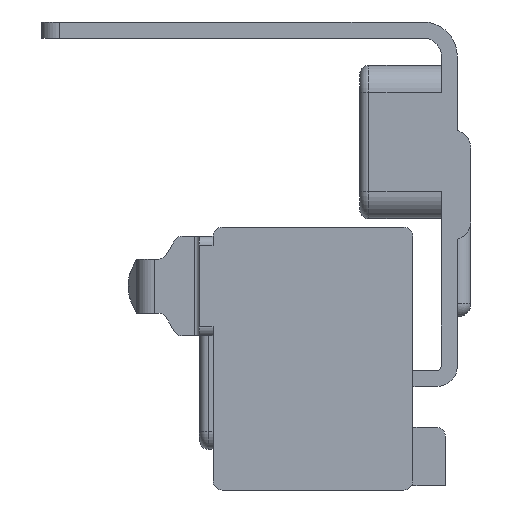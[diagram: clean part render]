
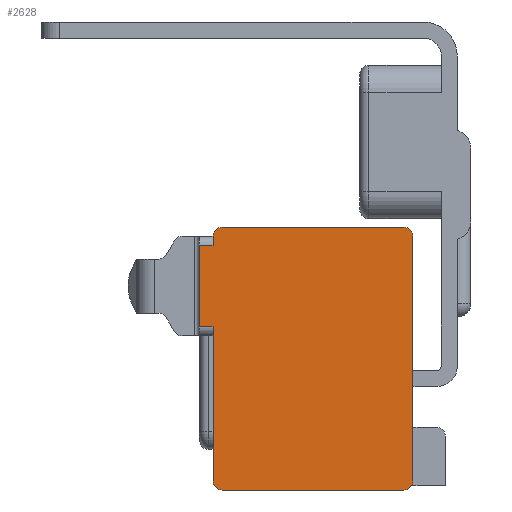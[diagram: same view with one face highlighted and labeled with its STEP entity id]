
A CAD part, left-side view. The second image highlights one B-rep face of the part: STEP entity #2628.
In plain terms, the highlighted planar face has unit normal (-1, 0, 0).
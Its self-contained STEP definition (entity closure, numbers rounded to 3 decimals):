
#11 = ORIENTED_EDGE ( 'NONE', *, *, #821, .T. ) ;
#38 = VERTEX_POINT ( 'NONE', #5432 ) ;
#59 = CARTESIAN_POINT ( 'NONE',  ( -103., 5.9, -11.43 ) ) ;
#80 = LINE ( 'NONE', #5522, #3697 ) ;
#113 = LINE ( 'NONE', #3253, #258 ) ;
#188 = VERTEX_POINT ( 'NONE', #2186 ) ;
#246 = EDGE_CURVE ( 'NONE', #5595, #4277, #113, .T. ) ;
#258 = VECTOR ( 'NONE', #2802, 1000. ) ;
#273 = EDGE_CURVE ( 'NONE', #2851, #188, #5119, .T. ) ;
#282 = CARTESIAN_POINT ( 'NONE',  ( -103., 27., 16.6 ) ) ;
#307 = CARTESIAN_POINT ( 'NONE',  ( -103., 4.9, -10.43 ) ) ;
#466 = CARTESIAN_POINT ( 'NONE',  ( -103., 26., 16.6 ) ) ;
#478 = AXIS2_PLACEMENT_3D ( 'NONE', #4715, #5324, #5301 ) ;
#546 = DIRECTION ( 'NONE',  ( 0., 1., 0. ) ) ;
#553 = CARTESIAN_POINT ( 'NONE',  ( -103., 26., 17.6 ) ) ;
#569 = DIRECTION ( 'NONE',  ( -1., 0., 0. ) ) ;
#586 = CARTESIAN_POINT ( 'NONE',  ( -103., 26., -10.43 ) ) ;
#657 = DIRECTION ( 'NONE',  ( 0., 1., 0. ) ) ;
#662 = ORIENTED_EDGE ( 'NONE', *, *, #2162, .T. ) ;
#671 = CARTESIAN_POINT ( 'NONE',  ( -103., 28.5, 15.6 ) ) ;
#821 = EDGE_CURVE ( 'NONE', #4277, #3426, #5674, .T. ) ;
#878 = ORIENTED_EDGE ( 'NONE', *, *, #3406, .T. ) ;
#987 = VECTOR ( 'NONE', #3020, 1000. ) ;
#1039 = DIRECTION ( 'NONE',  ( 0., 0., -1. ) ) ;
#1123 = ORIENTED_EDGE ( 'NONE', *, *, #2232, .T. ) ;
#1176 = VERTEX_POINT ( 'NONE', #2259 ) ;
#1353 = CARTESIAN_POINT ( 'NONE',  ( -103., 27., -10.43 ) ) ;
#1536 = ORIENTED_EDGE ( 'NONE', *, *, #2674, .T. ) ;
#1584 = CARTESIAN_POINT ( 'NONE',  ( -103., 27., 6.6 ) ) ;
#1663 = VERTEX_POINT ( 'NONE', #553 ) ;
#1681 = ORIENTED_EDGE ( 'NONE', *, *, #3407, .T. ) ;
#1761 = DIRECTION ( 'NONE',  ( 0., 1., 0. ) ) ;
#1841 = VECTOR ( 'NONE', #1039, 1000. ) ;
#1851 = VECTOR ( 'NONE', #657, 1000. ) ;
#1897 = ORIENTED_EDGE ( 'NONE', *, *, #273, .T. ) ;
#1960 = AXIS2_PLACEMENT_3D ( 'NONE', #586, #569, #546 ) ;
#2007 = EDGE_CURVE ( 'NONE', #5326, #5595, #5714, .T. ) ;
#2126 = AXIS2_PLACEMENT_3D ( 'NONE', #466, #6031, #1761 ) ;
#2162 = EDGE_CURVE ( 'NONE', #188, #38, #5924, .T. ) ;
#2186 = CARTESIAN_POINT ( 'NONE',  ( -103., 27., -10.43 ) ) ;
#2205 = VERTEX_POINT ( 'NONE', #4471 ) ;
#2219 = LINE ( 'NONE', #2231, #3355 ) ;
#2231 = CARTESIAN_POINT ( 'NONE',  ( -103., 28.5, 6.6 ) ) ;
#2232 = EDGE_CURVE ( 'NONE', #2611, #1176, #2976, .T. ) ;
#2233 = LINE ( 'NONE', #2590, #987 ) ;
#2259 = CARTESIAN_POINT ( 'NONE',  ( -103., 28.5, 15.6 ) ) ;
#2303 = VERTEX_POINT ( 'NONE', #282 ) ;
#2455 = CIRCLE ( 'NONE', #2126, 1. ) ;
#2590 = CARTESIAN_POINT ( 'NONE',  ( -103., 28.5, 16.6 ) ) ;
#2611 = VERTEX_POINT ( 'NONE', #3251 ) ;
#2628 = ADVANCED_FACE ( 'NONE', ( #5783 ), #5682, .F. ) ;
#2653 = ORIENTED_EDGE ( 'NONE', *, *, #2007, .T. ) ;
#2674 = EDGE_CURVE ( 'NONE', #2303, #2611, #3108, .T. ) ;
#2697 = DIRECTION ( 'NONE',  ( 0., -1., 0. ) ) ;
#2802 = DIRECTION ( 'NONE',  ( 0., 0., 1. ) ) ;
#2851 = VERTEX_POINT ( 'NONE', #1584 ) ;
#2936 = EDGE_CURVE ( 'NONE', #38, #5326, #5546, .T. ) ;
#2976 = LINE ( 'NONE', #671, #1851 ) ;
#2987 = CARTESIAN_POINT ( 'NONE',  ( -103., 5.9, 16.6 ) ) ;
#3007 = DIRECTION ( 'NONE',  ( -1., 0., 0. ) ) ;
#3020 = DIRECTION ( 'NONE',  ( 0., 0., -1. ) ) ;
#3067 = EDGE_CURVE ( 'NONE', #3426, #1663, #80, .T. ) ;
#3095 = CARTESIAN_POINT ( 'NONE',  ( -103., 4.9, 16.6 ) ) ;
#3108 = LINE ( 'NONE', #1353, #1841 ) ;
#3183 = ORIENTED_EDGE ( 'NONE', *, *, #3067, .T. ) ;
#3234 = CARTESIAN_POINT ( 'NONE',  ( -103., 5.9, -11.43 ) ) ;
#3251 = CARTESIAN_POINT ( 'NONE',  ( -103., 27., 15.6 ) ) ;
#3253 = CARTESIAN_POINT ( 'NONE',  ( -103., 4.9, 16.6 ) ) ;
#3291 = DIRECTION ( 'NONE',  ( 0., 1., 0. ) ) ;
#3293 = DIRECTION ( 'NONE',  ( 0., 1., 0. ) ) ;
#3329 = DIRECTION ( 'NONE',  ( -1., 0., 0. ) ) ;
#3341 = CARTESIAN_POINT ( 'NONE',  ( -103., 5.9, 17.6 ) ) ;
#3355 = VECTOR ( 'NONE', #2697, 1000. ) ;
#3376 = CARTESIAN_POINT ( 'NONE',  ( -103., 5.9, -10.43 ) ) ;
#3406 = EDGE_CURVE ( 'NONE', #1663, #2303, #2455, .T. ) ;
#3407 = EDGE_CURVE ( 'NONE', #1176, #2205, #2233, .T. ) ;
#3426 = VERTEX_POINT ( 'NONE', #3341 ) ;
#3436 = ORIENTED_EDGE ( 'NONE', *, *, #246, .T. ) ;
#3533 = DIRECTION ( 'NONE',  ( 0., -1., 0. ) ) ;
#3682 = DIRECTION ( 'NONE',  ( 0., 0., -1. ) ) ;
#3697 = VECTOR ( 'NONE', #6106, 1000. ) ;
#3728 = CARTESIAN_POINT ( 'NONE',  ( -103., 27., -10.43 ) ) ;
#3782 = AXIS2_PLACEMENT_3D ( 'NONE', #2987, #3007, #3291 ) ;
#3932 = ORIENTED_EDGE ( 'NONE', *, *, #5169, .T. ) ;
#4000 = AXIS2_PLACEMENT_3D ( 'NONE', #3376, #3329, #3293 ) ;
#4277 = VERTEX_POINT ( 'NONE', #3095 ) ;
#4285 = VECTOR ( 'NONE', #3533, 1000. ) ;
#4457 = ORIENTED_EDGE ( 'NONE', *, *, #2936, .T. ) ;
#4471 = CARTESIAN_POINT ( 'NONE',  ( -103., 28.5, 6.6 ) ) ;
#4715 = CARTESIAN_POINT ( 'NONE',  ( -103., 28.5, 16.6 ) ) ;
#5119 = LINE ( 'NONE', #3728, #5652 ) ;
#5169 = EDGE_CURVE ( 'NONE', #2205, #2851, #2219, .T. ) ;
#5301 = DIRECTION ( 'NONE',  ( 0., 0., 1. ) ) ;
#5324 = DIRECTION ( 'NONE',  ( 1., 0., 0. ) ) ;
#5326 = VERTEX_POINT ( 'NONE', #59 ) ;
#5432 = CARTESIAN_POINT ( 'NONE',  ( -103., 26., -11.43 ) ) ;
#5522 = CARTESIAN_POINT ( 'NONE',  ( -103., 5.9, 17.6 ) ) ;
#5546 = LINE ( 'NONE', #3234, #4285 ) ;
#5595 = VERTEX_POINT ( 'NONE', #307 ) ;
#5652 = VECTOR ( 'NONE', #3682, 1000. ) ;
#5674 = CIRCLE ( 'NONE', #3782, 1. ) ;
#5682 = PLANE ( 'NONE',  #478 ) ;
#5714 = CIRCLE ( 'NONE', #4000, 1. ) ;
#5783 = FACE_OUTER_BOUND ( 'NONE', #6025, .T. ) ;
#5924 = CIRCLE ( 'NONE', #1960, 1. ) ;
#6025 = EDGE_LOOP ( 'NONE', ( #4457, #2653, #3436, #11, #3183, #878, #1536, #1123, #1681, #3932, #1897, #662 ) ) ;
#6031 = DIRECTION ( 'NONE',  ( -1., 0., 0. ) ) ;
#6106 = DIRECTION ( 'NONE',  ( 0., 1., 0. ) ) ;
